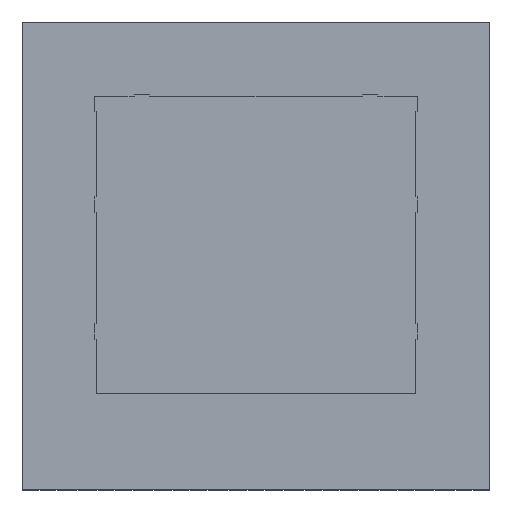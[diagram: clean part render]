
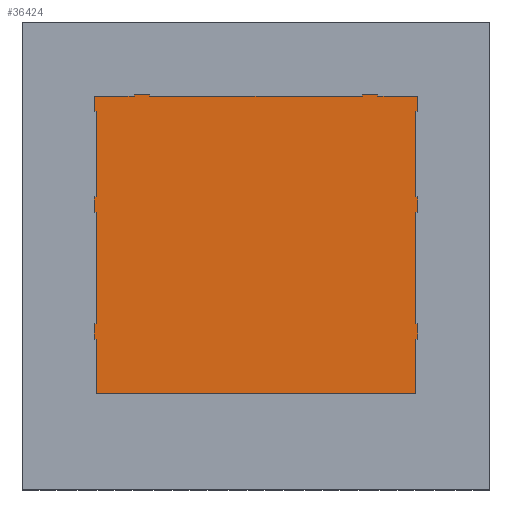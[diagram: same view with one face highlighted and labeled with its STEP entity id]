
A CAD part, top view. The second image highlights one B-rep face of the part: STEP entity #36424.
In plain terms, the highlighted planar face has unit normal (0, 0, 1) as drawn and (0, 1, 0) by its records, which use the part's own axes.
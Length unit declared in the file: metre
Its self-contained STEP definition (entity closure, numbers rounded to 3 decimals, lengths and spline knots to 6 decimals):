
#14871=EDGE_CURVE('0:8476',#30028,#30031,#30032,.T.);
#14907=EDGE_CURVE('0:8365',#30082,#30079,#30083,.T.);
#14961=EDGE_CURVE('0:8446',#30154,#30119,#30157,.T.);
#14963=EDGE_CURVE('0:8449',#30159,#30079,#30160,.T.);
#14965=EDGE_CURVE('0:8452',#30162,#30159,#30163,.T.);
#14967=EDGE_CURVE('0:8455',#30165,#30162,#30166,.T.);
#14969=EDGE_CURVE('0:8458',#30165,#30168,#30169,.T.);
#14971=EDGE_CURVE('0:8461',#30171,#30168,#30172,.T.);
#14973=EDGE_CURVE('0:8464',#30174,#30171,#30175,.T.);
#14975=EDGE_CURVE('0:8467',#30177,#30174,#30178,.T.);
#14977=EDGE_CURVE('0:8470',#30177,#30180,#30181,.T.);
#14979=EDGE_CURVE('0:8473',#30031,#30180,#30183,.T.);
#14981=EDGE_CURVE('0:8479',#30185,#30028,#30186,.T.);
#14983=EDGE_CURVE('0:8482',#30185,#30188,#30189,.T.);
#14985=EDGE_CURVE('0:8485',#30188,#30191,#30192,.T.);
#14987=EDGE_CURVE('0:8488',#30194,#30191,#30195,.T.);
#14989=EDGE_CURVE('0:8491',#30197,#30194,#30198,.T.);
#14991=EDGE_CURVE('0:8494',#30197,#30200,#30201,.T.);
#14993=EDGE_CURVE('0:8497',#30200,#30203,#30204,.T.);
#14995=EDGE_CURVE('0:8500',#30206,#30203,#30207,.T.);
#14997=EDGE_CURVE('0:8503',#30209,#30206,#30210,.T.);
#14999=EDGE_CURVE('0:8506',#30209,#30212,#30213,.T.);
#15001=EDGE_CURVE('0:8509',#30212,#30215,#30216,.T.);
#15003=EDGE_CURVE('0:8512',#30218,#30215,#30219,.T.);
#15005=EDGE_CURVE('0:8515',#30218,#30221,#30222,.T.);
#15007=EDGE_CURVE('0:8518',#30224,#30221,#30225,.T.);
#15009=EDGE_CURVE('0:8521',#30227,#30224,#30228,.T.);
#15011=EDGE_CURVE('0:8524',#30230,#30227,#30231,.T.);
#15013=EDGE_CURVE('0:8527',#30230,#30233,#30234,.T.);
#15015=EDGE_CURVE('0:8530',#30233,#30236,#30237,.T.);
#15017=EDGE_CURVE('0:8533',#30119,#30236,#30239,.T.);
#15019=EDGE_CURVE('0:8536',#30082,#30154,#30241,.T.);
#30028=VERTEX_POINT('',#56459);
#30031=VERTEX_POINT('',#56464);
#30032=LINE('',#56465,#56466);
#30079=VERTEX_POINT('',#56544);
#30082=VERTEX_POINT('',#56549);
#30083=LINE('',#56550,#56551);
#30119=VERTEX_POINT('',#56614);
#30154=VERTEX_POINT('',#56672);
#30157=LINE('',#56677,#56678);
#30159=VERTEX_POINT('',#56681);
#30160=LINE('',#56682,#56683);
#30162=VERTEX_POINT('',#56686);
#30163=LINE('',#56687,#56688);
#30165=VERTEX_POINT('',#56691);
#30166=LINE('',#56692,#56693);
#30168=VERTEX_POINT('',#56696);
#30169=LINE('',#56697,#56698);
#30171=VERTEX_POINT('',#56701);
#30172=LINE('',#56702,#56703);
#30174=VERTEX_POINT('',#56706);
#30175=LINE('',#56707,#56708);
#30177=VERTEX_POINT('',#56711);
#30178=LINE('',#56712,#56713);
#30180=VERTEX_POINT('',#56716);
#30181=LINE('',#56717,#56718);
#30183=LINE('',#56721,#56722);
#30185=VERTEX_POINT('',#56725);
#30186=LINE('',#56726,#56727);
#30188=VERTEX_POINT('',#56730);
#30189=LINE('',#56731,#56732);
#30191=VERTEX_POINT('',#56735);
#30192=LINE('',#56736,#56737);
#30194=VERTEX_POINT('',#56740);
#30195=LINE('',#56741,#56742);
#30197=VERTEX_POINT('',#56745);
#30198=LINE('',#56746,#56747);
#30200=VERTEX_POINT('',#56750);
#30201=LINE('',#56751,#56752);
#30203=VERTEX_POINT('',#56755);
#30204=LINE('',#56756,#56757);
#30206=VERTEX_POINT('',#56760);
#30207=LINE('',#56761,#56762);
#30209=VERTEX_POINT('',#56765);
#30210=LINE('',#56766,#56767);
#30212=VERTEX_POINT('',#56770);
#30213=LINE('',#56771,#56772);
#30215=VERTEX_POINT('',#56775);
#30216=LINE('',#56776,#56777);
#30218=VERTEX_POINT('',#56780);
#30219=LINE('',#56781,#56782);
#30221=VERTEX_POINT('',#56785);
#30222=LINE('',#56786,#56787);
#30224=VERTEX_POINT('',#56790);
#30225=LINE('',#56791,#56792);
#30227=VERTEX_POINT('',#56795);
#30228=LINE('',#56796,#56797);
#30230=VERTEX_POINT('',#56800);
#30231=LINE('',#56801,#56802);
#30233=VERTEX_POINT('',#56805);
#30234=LINE('',#56806,#56807);
#30236=VERTEX_POINT('',#56810);
#30237=LINE('',#56811,#56812);
#30239=LINE('',#56815,#56816);
#30241=LINE('',#56819,#56820);
#36424=ADVANCED_FACE('0:5732',(#67893),#67894,.T.);
#56459=CARTESIAN_POINT('',(0.0041,0.0009,0.003535));
#56464=CARTESIAN_POINT('',(-0.0041,0.0009,0.003535));
#56465=CARTESIAN_POINT('',(0.0041,0.0009,0.003535));
#56466=VECTOR('',#73682,0.0082);
#56544=CARTESIAN_POINT('',(-0.0041,0.0009,-0.003715));
#56549=CARTESIAN_POINT('',(-0.00415,0.0009,-0.003715));
#56550=CARTESIAN_POINT('',(-0.00415,0.0009,-0.003715));
#56551=VECTOR('',#73704,0.00005);
#56614=CARTESIAN_POINT('',(-0.003125,0.0009,-0.0041));
#56672=CARTESIAN_POINT('',(-0.00415,0.0009,-0.0041));
#56677=CARTESIAN_POINT('',(-0.00415,0.0009,-0.0041));
#56678=VECTOR('',#73733,0.001025);
#56681=CARTESIAN_POINT('',(-0.0041,0.0009,-0.001515));
#56682=CARTESIAN_POINT('',(-0.0041,0.0009,-0.001515));
#56683=VECTOR('',#73734,0.0022);
#56686=CARTESIAN_POINT('',(-0.00415,0.0009,-0.001515));
#56687=CARTESIAN_POINT('',(-0.00415,0.0009,-0.001515));
#56688=VECTOR('',#73735,0.00005);
#56691=CARTESIAN_POINT('',(-0.00415,0.0009,-0.001115));
#56692=CARTESIAN_POINT('',(-0.00415,0.0009,-0.001115));
#56693=VECTOR('',#73736,0.0004);
#56696=CARTESIAN_POINT('',(-0.0041,0.0009,-0.001115));
#56697=CARTESIAN_POINT('',(-0.00415,0.0009,-0.001115));
#56698=VECTOR('',#73737,0.00005);
#56701=CARTESIAN_POINT('',(-0.0041,0.0009,0.001735));
#56702=CARTESIAN_POINT('',(-0.0041,0.0009,0.001735));
#56703=VECTOR('',#73738,0.00285);
#56706=CARTESIAN_POINT('',(-0.00415,0.0009,0.001735));
#56707=CARTESIAN_POINT('',(-0.00415,0.0009,0.001735));
#56708=VECTOR('',#73739,0.00005);
#56711=CARTESIAN_POINT('',(-0.00415,0.0009,0.002135));
#56712=CARTESIAN_POINT('',(-0.00415,0.0009,0.002135));
#56713=VECTOR('',#73740,0.0004);
#56716=CARTESIAN_POINT('',(-0.0041,0.0009,0.002135));
#56717=CARTESIAN_POINT('',(-0.00415,0.0009,0.002135));
#56718=VECTOR('',#73741,0.00005);
#56721=CARTESIAN_POINT('',(-0.0041,0.0009,0.003535));
#56722=VECTOR('',#73742,0.0014);
#56725=CARTESIAN_POINT('',(0.0041,0.0009,0.002135));
#56726=CARTESIAN_POINT('',(0.0041,0.0009,0.002135));
#56727=VECTOR('',#73743,0.0014);
#56730=CARTESIAN_POINT('',(0.00415,0.0009,0.002135));
#56731=CARTESIAN_POINT('',(0.0041,0.0009,0.002135));
#56732=VECTOR('',#73744,0.00005);
#56735=CARTESIAN_POINT('',(0.00415,0.0009,0.001735));
#56736=CARTESIAN_POINT('',(0.00415,0.0009,0.002135));
#56737=VECTOR('',#73745,0.0004);
#56740=CARTESIAN_POINT('',(0.0041,0.0009,0.001735));
#56741=CARTESIAN_POINT('',(0.0041,0.0009,0.001735));
#56742=VECTOR('',#73746,0.00005);
#56745=CARTESIAN_POINT('',(0.0041,0.0009,-0.001115));
#56746=CARTESIAN_POINT('',(0.0041,0.0009,-0.001115));
#56747=VECTOR('',#73747,0.00285);
#56750=CARTESIAN_POINT('',(0.00415,0.0009,-0.001115));
#56751=CARTESIAN_POINT('',(0.0041,0.0009,-0.001115));
#56752=VECTOR('',#73748,0.00005);
#56755=CARTESIAN_POINT('',(0.00415,0.0009,-0.001515));
#56756=CARTESIAN_POINT('',(0.00415,0.0009,-0.001115));
#56757=VECTOR('',#73749,0.0004);
#56760=CARTESIAN_POINT('',(0.0041,0.0009,-0.001515));
#56761=CARTESIAN_POINT('',(0.0041,0.0009,-0.001515));
#56762=VECTOR('',#73750,0.00005);
#56765=CARTESIAN_POINT('',(0.0041,0.0009,-0.003715));
#56766=CARTESIAN_POINT('',(0.0041,0.0009,-0.003715));
#56767=VECTOR('',#73751,0.0022);
#56770=CARTESIAN_POINT('',(0.00415,0.0009,-0.003715));
#56771=CARTESIAN_POINT('',(0.0041,0.0009,-0.003715));
#56772=VECTOR('',#73752,0.00005);
#56775=CARTESIAN_POINT('',(0.00415,0.0009,-0.0041));
#56776=CARTESIAN_POINT('',(0.00415,0.0009,-0.003715));
#56777=VECTOR('',#73753,0.000385);
#56780=CARTESIAN_POINT('',(0.003125,0.0009,-0.0041));
#56781=CARTESIAN_POINT('',(0.003125,0.0009,-0.0041));
#56782=VECTOR('',#73754,0.001025);
#56785=CARTESIAN_POINT('',(0.003125,0.0009,-0.00415));
#56786=CARTESIAN_POINT('',(0.003125,0.0009,-0.0041));
#56787=VECTOR('',#73755,0.00005);
#56790=CARTESIAN_POINT('',(0.002725,0.0009,-0.00415));
#56791=CARTESIAN_POINT('',(0.002725,0.0009,-0.00415));
#56792=VECTOR('',#73756,0.0004);
#56795=CARTESIAN_POINT('',(0.002725,0.0009,-0.0041));
#56796=CARTESIAN_POINT('',(0.002725,0.0009,-0.0041));
#56797=VECTOR('',#73757,0.00005);
#56800=CARTESIAN_POINT('',(-0.002725,0.0009,-0.0041));
#56801=CARTESIAN_POINT('',(-0.002725,0.0009,-0.0041));
#56802=VECTOR('',#73758,0.00545);
#56805=CARTESIAN_POINT('',(-0.002725,0.0009,-0.00415));
#56806=CARTESIAN_POINT('',(-0.002725,0.0009,-0.0041));
#56807=VECTOR('',#73759,0.00005);
#56810=CARTESIAN_POINT('',(-0.003125,0.0009,-0.00415));
#56811=CARTESIAN_POINT('',(-0.002725,0.0009,-0.00415));
#56812=VECTOR('',#73760,0.0004);
#56815=CARTESIAN_POINT('',(-0.003125,0.0009,-0.0041));
#56816=VECTOR('',#73761,0.00005);
#56819=CARTESIAN_POINT('',(-0.00415,0.0009,-0.003715));
#56820=VECTOR('',#73762,0.000385);
#67893=FACE_OUTER_BOUND('',#78400,.T.);
#67894=PLANE('',#78401);
#73682=DIRECTION('',(-1.0,0.0,0.0));
#73704=DIRECTION('',(1.0,0.0,0.0));
#73733=DIRECTION('',(1.0,0.0,0.0));
#73734=DIRECTION('',(0.0,0.0,-1.0));
#73735=DIRECTION('',(1.0,0.0,0.0));
#73736=DIRECTION('',(0.0,0.0,-1.0));
#73737=DIRECTION('',(1.0,0.0,0.0));
#73738=DIRECTION('',(0.0,0.0,-1.0));
#73739=DIRECTION('',(1.0,0.0,0.0));
#73740=DIRECTION('',(0.0,0.0,-1.0));
#73741=DIRECTION('',(1.0,0.0,0.0));
#73742=DIRECTION('',(0.0,0.0,-1.0));
#73743=DIRECTION('',(0.0,0.0,1.0));
#73744=DIRECTION('',(1.0,0.,0.0));
#73745=DIRECTION('',(0.0,0.0,-1.0));
#73746=DIRECTION('',(1.0,0.,0.0));
#73747=DIRECTION('',(0.0,0.0,1.0));
#73748=DIRECTION('',(1.0,0.,0.0));
#73749=DIRECTION('',(0.0,0.0,-1.0));
#73750=DIRECTION('',(1.0,0.,0.0));
#73751=DIRECTION('',(0.0,0.0,1.0));
#73752=DIRECTION('',(1.0,0.,0.0));
#73753=DIRECTION('',(0.0,0.0,-1.0));
#73754=DIRECTION('',(1.0,0.0,0.0));
#73755=DIRECTION('',(0.0,0.,-1.0));
#73756=DIRECTION('',(1.0,0.0,0.0));
#73757=DIRECTION('',(0.0,0.,-1.0));
#73758=DIRECTION('',(1.0,0.0,0.0));
#73759=DIRECTION('',(0.0,0.,-1.0));
#73760=DIRECTION('',(-1.0,0.0,0.0));
#73761=DIRECTION('',(0.0,0.,-1.0));
#73762=DIRECTION('',(0.0,0.0,-1.0));
#78400=EDGE_LOOP('',(#92084,#92085,#92086,#92087,#92088,#92089,#92090,#92091,#92092,#92093,#92094,#92095,#92096,#92097,#92098,#92099,#92100,#92101,#92102,#92103,#92104,#92105,#92106,#92107,#92108,#92109,#92110,#92111,#92112,#92113,#92114,#92115));
#78401=AXIS2_PLACEMENT_3D('',#92116,#92117,#92118);
#92084=ORIENTED_EDGE('',*,*,#14907,.T.);
#92085=ORIENTED_EDGE('',*,*,#14963,.F.);
#92086=ORIENTED_EDGE('',*,*,#14965,.F.);
#92087=ORIENTED_EDGE('',*,*,#14967,.F.);
#92088=ORIENTED_EDGE('',*,*,#14969,.T.);
#92089=ORIENTED_EDGE('',*,*,#14971,.F.);
#92090=ORIENTED_EDGE('',*,*,#14973,.F.);
#92091=ORIENTED_EDGE('',*,*,#14975,.F.);
#92092=ORIENTED_EDGE('',*,*,#14977,.T.);
#92093=ORIENTED_EDGE('',*,*,#14979,.F.);
#92094=ORIENTED_EDGE('',*,*,#14871,.F.);
#92095=ORIENTED_EDGE('',*,*,#14981,.F.);
#92096=ORIENTED_EDGE('',*,*,#14983,.T.);
#92097=ORIENTED_EDGE('',*,*,#14985,.T.);
#92098=ORIENTED_EDGE('',*,*,#14987,.F.);
#92099=ORIENTED_EDGE('',*,*,#14989,.F.);
#92100=ORIENTED_EDGE('',*,*,#14991,.T.);
#92101=ORIENTED_EDGE('',*,*,#14993,.T.);
#92102=ORIENTED_EDGE('',*,*,#14995,.F.);
#92103=ORIENTED_EDGE('',*,*,#14997,.F.);
#92104=ORIENTED_EDGE('',*,*,#14999,.T.);
#92105=ORIENTED_EDGE('',*,*,#15001,.T.);
#92106=ORIENTED_EDGE('',*,*,#15003,.F.);
#92107=ORIENTED_EDGE('',*,*,#15005,.T.);
#92108=ORIENTED_EDGE('',*,*,#15007,.F.);
#92109=ORIENTED_EDGE('',*,*,#15009,.F.);
#92110=ORIENTED_EDGE('',*,*,#15011,.F.);
#92111=ORIENTED_EDGE('',*,*,#15013,.T.);
#92112=ORIENTED_EDGE('',*,*,#15015,.T.);
#92113=ORIENTED_EDGE('',*,*,#15017,.F.);
#92114=ORIENTED_EDGE('',*,*,#14961,.F.);
#92115=ORIENTED_EDGE('',*,*,#15019,.F.);
#92116=CARTESIAN_POINT('',(0.0,0.0009,0.0));
#92117=DIRECTION('',(-0.0,1.0,0.0));
#92118=DIRECTION('',(1.0,0.0,0.0));
